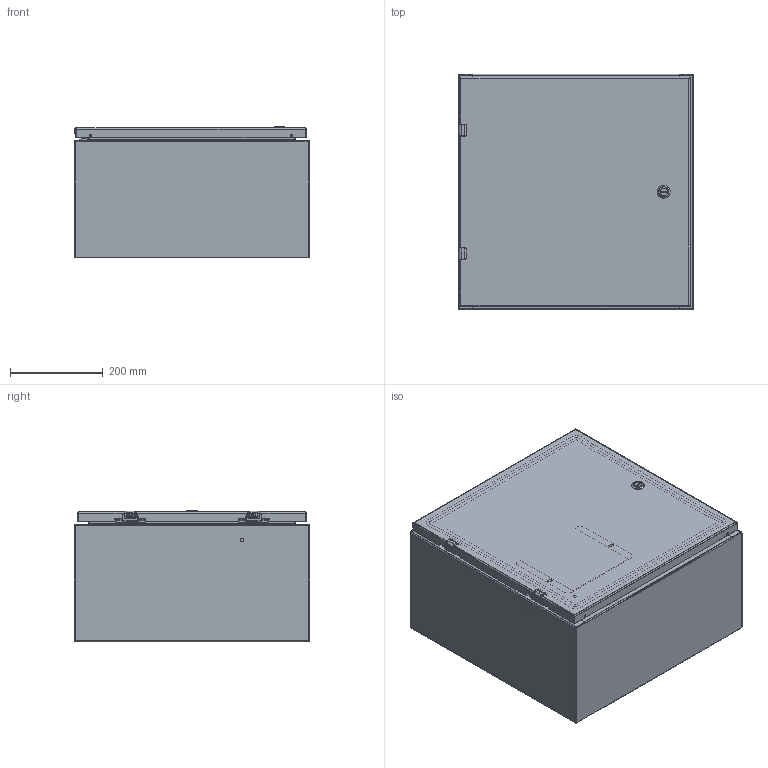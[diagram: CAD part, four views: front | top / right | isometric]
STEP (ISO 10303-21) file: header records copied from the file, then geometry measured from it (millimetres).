
FILE_DESCRIPTION((''),'2;1');
FILE_NAME('MODEL-305_ASM','2025-02-18T08:26:08',('joshi'),('SAGINAW CONTROL & ENGINEERING'),'CREO PARAMETRIC BY PTC INC, 2021284','CREO PARAMETRIC BY PTC INC, 2021284','');
FILE_SCHEMA(('AUTOMOTIVE_DESIGN { 1 0 10303 214 1 1 1 1 }'));
Length unit declared in the file: inch
Products named in the file (29): MODEL-305-BDY; MODEL-305-TP; MODEL-305-BTM; MODEL-305-DR; 100837; 100882; 111541; 100794_SHAFT; 100794_INSERT; 100794_CAM; 100794_NUT; 100794_SCREW; 100794_ASM; MODEL-305-DOOR-GASKET; 126391; 126391_ASM; 126393; 102483; 101226; 101376; 102140; 132757; MODEL-305-DOOR-ASSY_ASM; 101651; 122191; SUBPANEL; 100904; SUBPANEL-SUBASSEMBLY_ASM; MODEL-305_ASM
Assembly tree (49 placements, depth 4):
  MODEL-305_ASM
    MODEL-305-BDY
    MODEL-305-TP
    MODEL-305-BTM
    MODEL-305-DOOR-ASSY_ASM
      MODEL-305-DR
      100837  x3
      100882  x2
      111541
      100794_ASM
        100794_SHAFT
        100794_INSERT
        100794_CAM
        100794_NUT
        100794_SCREW
      MODEL-305-DOOR-GASKET
      126391_ASM  x2
        126391
      126393  x2
      102483  x6
      101226  x2
      101376  x2
      102140  x2
      132757  x2
    100837
    101651  x4
    122191
    SUBPANEL-SUBASSEMBLY_ASM
      SUBPANEL
      100904  x4
Bounding box: 508 x 508 x 285.13 mm (x, y, z)
Volume: 3085224.5 mm3; surface area: 2875375 mm2
Topology: 46 solids, 46 shells, 2551 faces, 6479 edges, 4074 vertices
Faces by surface type: plane 1086, cylinder 696, bspline 404, torus 205, cone 108, sphere 52
Entity records: 82093 total; most frequent: CARTESIAN_POINT 23806, ORIENTED_EDGE 8360, DIRECTION 7924, PRESENTATION_STYLE_ASSIGNMENT 4378, EDGE_CURVE 4180, STYLED_ITEM 4103, CURVE_STYLE 4018, AXIS2_PLACEMENT_3D 2916
